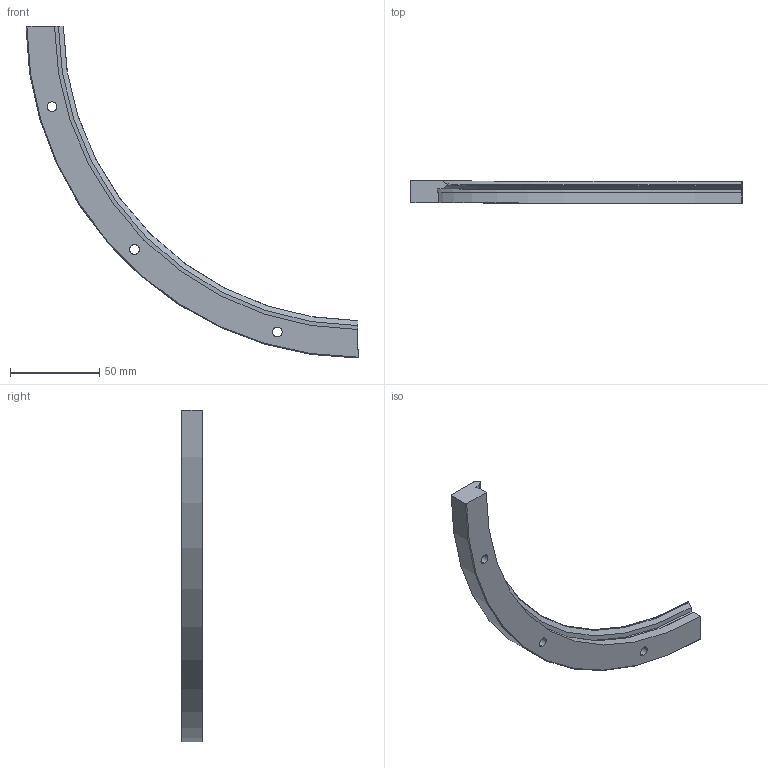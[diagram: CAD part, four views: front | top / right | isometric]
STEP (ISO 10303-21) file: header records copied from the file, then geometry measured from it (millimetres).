
FILE_DESCRIPTION(('STEP AP203'),'1');
FILE_NAME('ris_374_r90.stp','2021-08-30T05:57:28',('TraceParts'),('TraceParts S.A.'),'Spatial InterOp 3D',' ',' ');
FILE_SCHEMA(('CONFIG_CONTROL_DESIGN'));
Length unit declared in the file: millimetre
Products named in the file (1): 1
Bounding box: 186 x 12.25 x 186 mm (x, y, z)
Volume: 57035.7 mm3; surface area: 18906.4 mm2
Topology: 1 solids, 1 shells, 30 faces, 75 edges, 50 vertices
Faces by surface type: cylinder 15, plane 9, cone 4, torus 2
Entity records: 992 total; most frequent: CARTESIAN_POINT 200, DIRECTION 162, ORIENTED_EDGE 150, EDGE_CURVE 75, AXIS2_PLACEMENT_3D 68, VERTEX_POINT 50, EDGE_LOOP 39, CIRCLE 37
